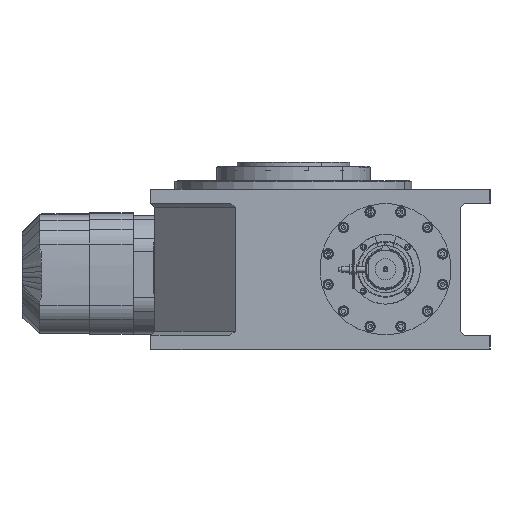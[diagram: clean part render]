
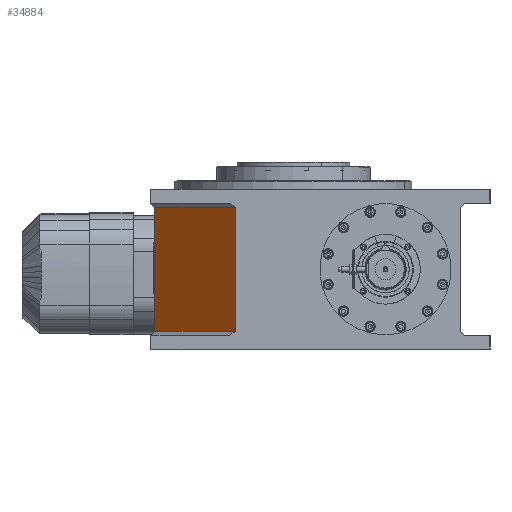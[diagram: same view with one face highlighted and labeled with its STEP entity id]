
A CAD part, top view. The second image highlights one B-rep face of the part: STEP entity #34884.
In plain terms, the highlighted planar face has unit normal (-0.707, 0, 0.707).
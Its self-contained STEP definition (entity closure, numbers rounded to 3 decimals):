
#921 = CARTESIAN_POINT ( 'NONE',  ( -83.259, 210., 199. ) ) ;
#3086 = VERTEX_POINT ( 'NONE', #11658 ) ;
#3689 = LINE ( 'NONE', #32086, #59613 ) ;
#5583 = DIRECTION ( 'NONE',  ( 0., -1., 0. ) ) ;
#8629 = PLANE ( 'NONE',  #60360 ) ;
#11658 = CARTESIAN_POINT ( 'NONE',  ( -83.259, 26., 199. ) ) ;
#11740 = VERTEX_POINT ( 'NONE', #44788 ) ;
#14078 = CARTESIAN_POINT ( 'NONE',  ( -199., 26., 83.259 ) ) ;
#17440 = FACE_OUTER_BOUND ( 'NONE', #42275, .T. ) ;
#18966 = DIRECTION ( 'NONE',  ( 0.707, 0., 0.707 ) ) ;
#22585 = CARTESIAN_POINT ( 'NONE',  ( -83.259, 210., 199. ) ) ;
#25930 = LINE ( 'NONE', #69651, #64725 ) ;
#27796 = ORIENTED_EDGE ( 'NONE', *, *, #86644, .T. ) ;
#30021 = DIRECTION ( 'NONE',  ( -0.707, 0., -0.707 ) ) ;
#32086 = CARTESIAN_POINT ( 'NONE',  ( -199., 204., 83.259 ) ) ;
#32613 = EDGE_CURVE ( 'NONE', #67829, #63298, #77288, .T. ) ;
#34884 = ADVANCED_FACE ( 'NONE', ( #17440 ), #8629, .F. ) ;
#36977 = DIRECTION ( 'NONE',  ( 0.707, 0., -0.707 ) ) ;
#42275 = EDGE_LOOP ( 'NONE', ( #60901, #43078, #60146, #27796 ) ) ;
#43078 = ORIENTED_EDGE ( 'NONE', *, *, #59734, .T. ) ;
#44788 = CARTESIAN_POINT ( 'NONE',  ( -83.259, 204., 199. ) ) ;
#54854 = CARTESIAN_POINT ( 'NONE',  ( -199., 210., 83.259 ) ) ;
#57340 = VECTOR ( 'NONE', #5583, 1000. ) ;
#59613 = VECTOR ( 'NONE', #88915, 1000. ) ;
#59734 = EDGE_CURVE ( 'NONE', #11740, #67829, #3689, .T. ) ;
#60146 = ORIENTED_EDGE ( 'NONE', *, *, #32613, .T. ) ;
#60360 = AXIS2_PLACEMENT_3D ( 'NONE', #22585, #36977, #30021 ) ;
#60901 = ORIENTED_EDGE ( 'NONE', *, *, #84634, .F. ) ;
#61437 = VECTOR ( 'NONE', #70759, 1000. ) ;
#63298 = VERTEX_POINT ( 'NONE', #14078 ) ;
#64725 = VECTOR ( 'NONE', #18966, 1000. ) ;
#67829 = VERTEX_POINT ( 'NONE', #70626 ) ;
#69651 = CARTESIAN_POINT ( 'NONE',  ( -83.259, 26., 199. ) ) ;
#70626 = CARTESIAN_POINT ( 'NONE',  ( -199., 204., 83.259 ) ) ;
#70759 = DIRECTION ( 'NONE',  ( 0., -1., 0. ) ) ;
#77288 = LINE ( 'NONE', #54854, #57340 ) ;
#78651 = LINE ( 'NONE', #921, #61437 ) ;
#84634 = EDGE_CURVE ( 'NONE', #11740, #3086, #78651, .T. ) ;
#86644 = EDGE_CURVE ( 'NONE', #63298, #3086, #25930, .T. ) ;
#88915 = DIRECTION ( 'NONE',  ( -0.707, 0., -0.707 ) ) ;
